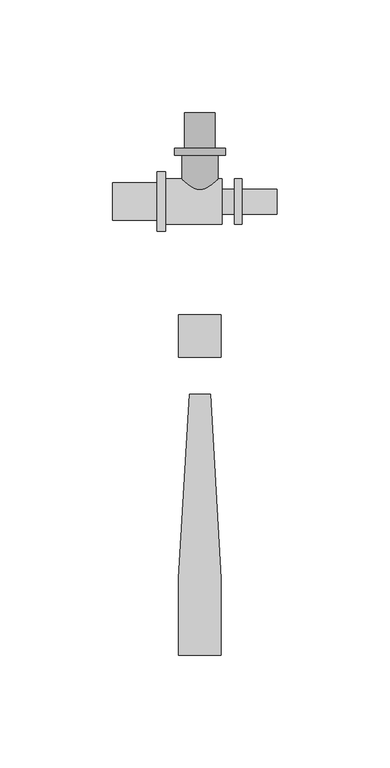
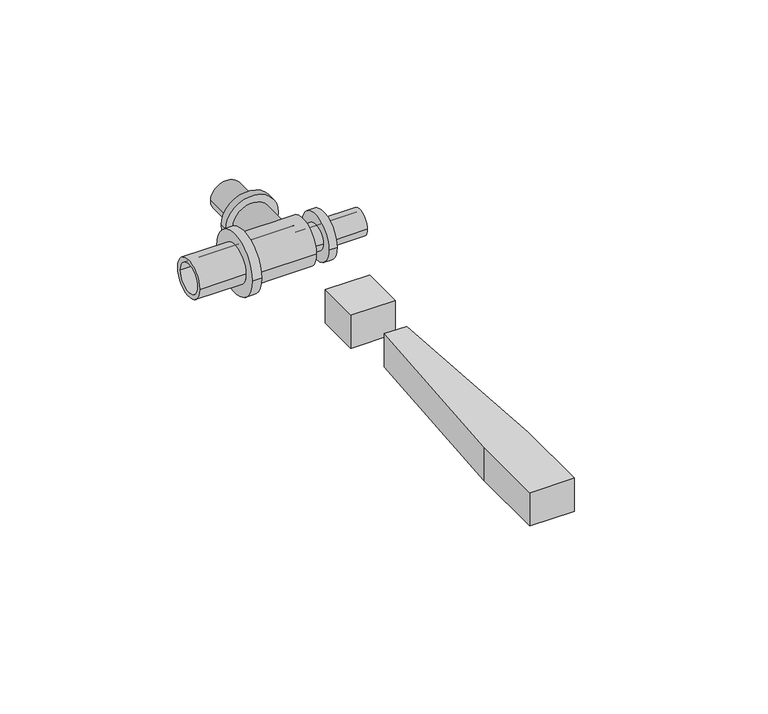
"""IFC4 building model written with IfcOpenShell, lengths in millimetres: pipe fitting geometry, RAUTITAN_T-piece_LX : RTI LX T DN."""

import ifcopenshell
import ifcopenshell.guid

model = None  # the IFC model being written
_history = None  # IfcOwnerHistory: only IFC2X3 demands one
_inside = {}  # id of a spatial element -> (the spatial element, [elements in it])
_under = {}  # id of a project, library or spatial element -> (it, [spatial elements below it])
_declared = {}  # id of a project -> (the project, [libraries it declares])
_typed = {}  # id of a type object -> (the type object, [elements of that type])
_made_of = {}  # id of a material, layer set ... -> (it, [elements and type objects made of it])


def new_model(schema):
    """Start an empty IFC model of exactly this schema.

    Asked for "IFC4X3", IfcOpenShell would pick the latest addendum, in which some entities
    have other attributes; the version numbers below select the first issue.
    IFC2X3 requires an IfcOwnerHistory on every rooted entity: one is made here for all.
    """
    global model, _history
    if schema == "IFC4X3":
        model = ifcopenshell.file(schema_version=(4, 3, 0, 0))
    else:
        model = ifcopenshell.file(schema=schema)
    _inside.clear()
    _under.clear()
    _declared.clear()
    _typed.clear()
    _made_of.clear()
    _history = None
    if model.schema == "IFC2X3":
        org = make("IfcOrganization", Name="unknown")
        user = make(
            "IfcPersonAndOrganization",
            ThePerson=make("IfcPerson", FamilyName="unknown"),
            TheOrganization=org,
        )
        app = make(
            "IfcApplication",
            ApplicationDeveloper=org,
            Version="unknown",
            ApplicationFullName="unknown",
            ApplicationIdentifier="unknown",
        )
        _history = make(
            "IfcOwnerHistory",
            OwningUser=user,
            OwningApplication=app,
            ChangeAction="ADDED",
            CreationDate=0,
        )
    return model


def make(cls, **values):
    """One entity of the class cls with the attributes given. An attribute that is None is left unset."""
    return model.create_entity(
        cls, **{name: value for name, value in values.items() if value is not None}
    )


def rooted(cls, **values):
    """An entity with a GlobalId (a new one), such as an element, a storey or a relation."""
    return make(cls, GlobalId=ifcopenshell.guid.new(), OwnerHistory=_history, **values)


def si_unit(unit_type, name, prefix=None):
    """IfcSIUnit, for example si_unit("LENGTHUNIT", "METRE", prefix="MILLI")."""
    return make("IfcSIUnit", UnitType=unit_type, Prefix=prefix, Name=name)


def assignment(units):
    """IfcUnitAssignment: the units of a project."""
    return None if units is None else make("IfcUnitAssignment", Units=units)


def point(xyz):
    """IfcCartesianPoint."""
    return None if xyz is None else make("IfcCartesianPoint", Coordinates=xyz)


def direction(xyz):
    """IfcDirection."""
    return None if xyz is None else make("IfcDirection", DirectionRatios=xyz)


def frame(location, z_axis=None, x_axis=None):
    """IfcAxis2Placement3D, a coordinate frame: its origin and axes. An axis left out is left unset."""
    return make(
        "IfcAxis2Placement3D",
        Location=point(location),
        Axis=direction(z_axis),
        RefDirection=direction(x_axis),
    )


def origin():
    """The frame at (0, 0, 0) with its axes left unset."""
    return frame((0.0, 0.0, 0.0))


def origin_with_axes():
    """The frame at (0, 0, 0) with the z axis (0, 0, 1) and the x axis (1, 0, 0) written out."""
    return frame((0.0, 0.0, 0.0), z_axis=(0.0, 0.0, 1.0), x_axis=(1.0, 0.0, 0.0))


def place(relative_to, where):
    """IfcLocalPlacement: puts the frame where relative to a parent placement (None: the world)."""
    return make(
        "IfcLocalPlacement", PlacementRelTo=relative_to, RelativePlacement=where
    )


def context(
    kind, dimensions, precision=None, world=None, true_north=None, identifier=None
):
    """IfcGeometricRepresentationContext, for example the 3D "Model" context."""
    return make(
        "IfcGeometricRepresentationContext",
        ContextIdentifier=identifier,
        ContextType=kind,
        CoordinateSpaceDimension=dimensions,
        Precision=precision,
        WorldCoordinateSystem=world,
        TrueNorth=true_north,
    )


def project(units=None, contexts=None):
    """IfcProject with its units and contexts."""
    return rooted(
        "IfcProject",
        Name="project",
        RepresentationContexts=contexts,
        UnitsInContext=assignment(units),
    )


def spatial(cls, under=None, at=None, **own):
    """A site, building, storey or space (cls), placed at a placement, below another one or the project."""
    s = rooted(cls, ObjectPlacement=at, **own)
    if under is not None:
        _under.setdefault(under.id(), (under, []))[1].append(s)
    return s


def polyline(points):
    """IfcPolyline through the points."""
    return make("IfcPolyline", Points=[point(p) for p in points])


def circle_curve(where, radius):
    """IfcCircle in the frame where."""
    return make("IfcCircle", Position=where, Radius=radius)


def outline(outer, holes=None, kind="AREA"):
    """IfcArbitraryClosedProfileDef: a profile drawn as a closed curve; with holes, ...WithVoids."""
    if holes is None:
        return make("IfcArbitraryClosedProfileDef", ProfileType=kind, OuterCurve=outer)
    return make(
        "IfcArbitraryProfileDefWithVoids",
        ProfileType=kind,
        OuterCurve=outer,
        InnerCurves=holes,
    )


def extrude(swept, where, along, depth):
    """IfcExtrudedAreaSolid: the profile swept, set in the frame where, extruded along a direction by depth."""
    return make(
        "IfcExtrudedAreaSolid",
        SweptArea=swept,
        Position=where,
        ExtrudedDirection=direction(along),
        Depth=depth,
    )


def shape(context_of_items, identifier, shape_type, items):
    """IfcShapeRepresentation: the items that make up one representation, for example the "Body"."""
    return make(
        "IfcShapeRepresentation",
        ContextOfItems=context_of_items,
        RepresentationIdentifier=identifier,
        RepresentationType=shape_type,
        Items=items,
    )


def source(mapping_origin, context_of_items, identifier, shape_type, items):
    """IfcRepresentationMap: a shape defined once, which mapped items show again and again."""
    return make(
        "IfcRepresentationMap",
        MappingOrigin=mapping_origin,
        MappedRepresentation=shape(context_of_items, identifier, shape_type, items),
    )


def transform(
    local_origin,
    x_axis=None,
    y_axis=None,
    z_axis=None,
    scale=None,
    scale2=None,
    scale3=None,
    uniform=True,
):
    """IfcCartesianTransformationOperator3D, or its non-uniform kind. x_axis, y_axis, z_axis: its Axis1, 2, 3."""
    if uniform:
        return make(
            "IfcCartesianTransformationOperator3D",
            Axis1=direction(x_axis),
            Axis2=direction(y_axis),
            LocalOrigin=point(local_origin),
            Scale=scale,
            Axis3=direction(z_axis),
        )
    return make(
        "IfcCartesianTransformationOperator3DnonUniform",
        Axis1=direction(x_axis),
        Axis2=direction(y_axis),
        LocalOrigin=point(local_origin),
        Scale=scale,
        Axis3=direction(z_axis),
        Scale2=scale2,
        Scale3=scale3,
    )


def mapped(mapping_source, mapping_target):
    """IfcMappedItem: shows the shape of a source again, moved by a transform."""
    return make(
        "IfcMappedItem", MappingSource=mapping_source, MappingTarget=mapping_target
    )


def made_of(thing, what):
    """Note that an element or type object is made of a material, layer set ...; save() writes the relation."""
    if what is not None:
        _made_of.setdefault(what.id(), (what, []))[1].append(thing)
    return thing


def element(
    cls,
    number,
    at=None,
    inside=None,
    cuts=None,
    type_object=None,
    material=None,
    context=None,
    identifier="Body",
    shape_type=None,
    held_by="IfcProductDefinitionShape",
    body=None,
    shapes=None,
    **own,
):
    """One element of the class cls, such as IfcWall. Its Tag is "e" and its number.

    at: its placement. inside: the storey or other place that contains it. cuts: it is an
    opening in that element (IfcRelVoidsElement). A single representation is given by context,
    identifier, shape_type and body (its items); several are given by shapes. held_by: the class
    of the entity that holds the representations. save() writes the other relations.
    """
    e = rooted(cls, Tag="e%d" % number, ObjectPlacement=at, **own)
    if body is not None:
        shapes = [shape(context, identifier, shape_type, body)]
    if shapes is not None:
        e.Representation = make(held_by, Representations=shapes)
    if inside is not None:
        _inside.setdefault(inside.id(), (inside, []))[1].append(e)
    if cuts is not None:
        rooted(
            "IfcRelVoidsElement", RelatingBuildingElement=cuts, RelatedOpeningElement=e
        )
    if type_object is not None:
        _typed.setdefault(type_object.id(), (type_object, []))[1].append(e)
    return made_of(e, material)


def aggregate(whole, parts):
    """IfcRelAggregates: a whole, such as a stair, and the parts it consists of."""
    return rooted("IfcRelAggregates", RelatingObject=whole, RelatedObjects=parts)


def save(model, path):
    """Write the relations noted so far, then the file.

    IfcRelAggregates (storeys below a building ...), IfcRelContainedInSpatialStructure (elements
    in a storey), IfcRelDefinesByType, IfcRelAssociatesMaterial and IfcRelDeclares: one each for
    every whole, place, type object, material and project.
    """
    for whole, parts in _under.values():
        aggregate(whole, parts)
    for where, things in _inside.values():
        rooted(
            "IfcRelContainedInSpatialStructure",
            RelatedElements=things,
            RelatingStructure=where,
        )
    for kind, things in _typed.values():
        rooted("IfcRelDefinesByType", RelatedObjects=things, RelatingType=kind)
    for what, things in _made_of.values():
        rooted("IfcRelAssociatesMaterial", RelatedObjects=things, RelatingMaterial=what)
    for by, libraries in _declared.values():
        rooted("IfcRelDeclares", RelatingContext=by, RelatedDefinitions=libraries)
    model.write(path)


def plane_surface(at):
    """IfcPlane: the flat surface through the origin of the frame at, square to its z axis."""
    return make("IfcPlane", Position=at)


def cylinder_surface(at, radius):
    """IfcCylindricalSurface: all points at the distance radius from the z axis of the frame at."""
    return make("IfcCylindricalSurface", Position=at, Radius=radius)


def revolved_surface(curve, axis_point, axis_direction):
    """IfcSurfaceOfRevolution: the curve turned about the line through axis_point along axis_direction."""
    return make(
        "IfcSurfaceOfRevolution",
        SweptCurve=make("IfcArbitraryOpenProfileDef", ProfileType="CURVE", Curve=curve),
        AxisPosition=make("IfcAxis1Placement", Location=point(axis_point), Axis=direction(axis_direction)),
    )


def advanced_brep(points, edges, surfaces, faces):
    """IfcAdvancedBrep: a solid bounded by faces that lie on surfaces and meet in shared edges.

    An edge is (start, end): straight between two places in points (the first is 0);
    or (start, end, curve); or (start, end, curve, False) where it runs against its curve.
    A face is (place in surfaces, loops), or (place, loops, False) where it looks against
    its surface's normal. A loop lists edges by number (the first is 1), with a minus sign
    where the edge is run from its end to its start. The first loop is the outer one.
    """
    corners = [point(p) for p in points]
    vertices = [make("IfcVertexPoint", VertexGeometry=c) for c in corners]
    made = []
    for start, end, *more in edges:
        made.append(
            make(
                "IfcEdgeCurve",
                EdgeStart=vertices[start],
                EdgeEnd=vertices[end],
                EdgeGeometry=more[0] if more else make("IfcPolyline", Points=[corners[start], corners[end]]),
                SameSense=more[1] if len(more) > 1 else True,
            )
        )
    hull = []
    for where, loops, *sense in faces:
        bounds = []
        for j, loop in enumerate(loops):
            ring = [make("IfcOrientedEdge", EdgeElement=made[abs(k) - 1], Orientation=k > 0) for k in loop]
            bounds.append(
                make(
                    "IfcFaceOuterBound" if j == 0 else "IfcFaceBound",
                    Bound=make("IfcEdgeLoop", EdgeList=ring),
                    Orientation=True,
                )
            )
        hull.append(make("IfcAdvancedFace", Bounds=bounds, FaceSurface=surfaces[where], SameSense=sense[0] if sense else True))
    return make("IfcAdvancedBrep", Outer=make("IfcClosedShell", CfsFaces=hull))


def pipe_fitting_2e8cdfe4(model_context):
    return source(origin(), model_context, "Body", "SolidModel", [
        advanced_brep(
        [(-8.05, 20.4, 0.0), (8.05, 20.4, 0.0), (8.05, 0.0, 0.0), (-8.05, 0.0, 0.0), (-11.25, 23.7, 0.0), (11.25, 23.7, 0.0), (11.25, 20.4, 0.0), (-11.25, 20.4, 0.0), (-6.75, 39.2, 0.0), (6.75, 39.2, 0.0), (6.75, 23.7, 0.0), (-6.75, 23.7, 0.0), (-4.95, 0.0, 0.0), (4.95, 0.0, 0.0), (4.95, 39.2, 0.0), (-4.95, 39.2, 0.0)],
        [
            (0, 1, circle_curve(frame((0.0, 20.4, 0.0), z_axis=(0.0, -1.0, 0.0), x_axis=(1.0, 0.0, 0.0)), 8.05)),
            (1, 2),
            (2, 3, circle_curve(frame((0.0, 0.0, 0.0), z_axis=(0.0, 1.0, 0.0), x_axis=(1.0, 0.0, 0.0)), 8.05)),
            (3, 0),
            (4, 5, circle_curve(frame((0.0, 23.7, 0.0), z_axis=(0.0, -1.0, 0.0), x_axis=(1.0, 0.0, 0.0)), 11.25)),
            (5, 6),
            (6, 7, circle_curve(frame((0.0, 20.4, 0.0), z_axis=(0.0, 1.0, 0.0), x_axis=(1.0, 0.0, 0.0)), 11.25)),
            (7, 4),
            (8, 9, circle_curve(frame((0.0, 39.2, 0.0), z_axis=(0.0, -1.0, 0.0), x_axis=(1.0, 0.0, 0.0)), 6.75)),
            (9, 10),
            (10, 11, circle_curve(frame((0.0, 23.7, 0.0), z_axis=(0.0, 1.0, 0.0), x_axis=(1.0, 0.0, 0.0)), 6.75)),
            (11, 8),
            (12, 13, circle_curve(frame((0.0, 0.0, 0.0), z_axis=(0.0, -1.0, 0.0), x_axis=(1.0, 0.0, 0.0)), 4.95)),
            (13, 14),
            (14, 15, circle_curve(frame((0.0, 39.2, 0.0), z_axis=(0.0, 1.0, 0.0), x_axis=(1.0, 0.0, 0.0)), 4.95)),
            (15, 12),
            (1, 0, circle_curve(frame((0.0, 20.4, 0.0), z_axis=(0.0, -1.0, 0.0), x_axis=(-1.0, 0.0, 0.0)), 8.05)),
            (3, 2, circle_curve(frame((0.0, 0.0, 0.0), z_axis=(0.0, 1.0, 0.0), x_axis=(-1.0, 0.0, 0.0)), 8.05)),
            (6, 7, circle_curve(frame((0.0, 20.4, 0.0), z_axis=(0.0, -1.0, 0.0), x_axis=(-1.0, 0.0, 0.0)), 11.25)),
            (5, 4, circle_curve(frame((0.0, 23.7, 0.0), z_axis=(0.0, -1.0, 0.0), x_axis=(-1.0, 0.0, 0.0)), 11.25)),
            (10, 11, circle_curve(frame((0.0, 23.7, 0.0), z_axis=(0.0, -1.0, 0.0), x_axis=(-1.0, 0.0, 0.0)), 6.75)),
            (9, 8, circle_curve(frame((0.0, 39.2, 0.0), z_axis=(0.0, -1.0, 0.0), x_axis=(-1.0, 0.0, 0.0)), 6.75)),
            (14, 15, circle_curve(frame((0.0, 39.2, 0.0), z_axis=(0.0, -1.0, 0.0), x_axis=(-1.0, 0.0, 0.0)), 4.95)),
            (13, 12, circle_curve(frame((0.0, 0.0, 0.0), z_axis=(0.0, -1.0, 0.0), x_axis=(-1.0, 0.0, 0.0)), 4.95)),
        ],
        [
            cylinder_surface(frame((0.0, 0.0, 0.0), z_axis=(0.0, 1.0, 0.0), x_axis=(1.0, 0.0, 0.0)), 8.05),
            cylinder_surface(frame((0.0, 0.0, 0.0), z_axis=(0.0, 1.0, 0.0), x_axis=(1.0, 0.0, 0.0)), 11.25),
            cylinder_surface(frame((0.0, 0.0, 0.0), z_axis=(0.0, 1.0, 0.0), x_axis=(1.0, 0.0, 0.0)), 6.75),
            revolved_surface(polyline([(4.95, 39.2, 0.0), (4.95, 0.0, 0.0)]), (0.0, 0.0, 0.0), (0.0, 1.0, 0.0)),
            cylinder_surface(frame((0.0, 0.0, 0.0), z_axis=(0.0, 1.0, 0.0), x_axis=(-1.0, 0.0, 0.0)), 8.05),
            plane_surface(frame((0.0, 20.4, 0.0), z_axis=(0.0, -1.0, 0.0), x_axis=(-1.0, 0.0, 0.0))),
            cylinder_surface(frame((0.0, 0.0, 0.0), z_axis=(0.0, 1.0, 0.0), x_axis=(-1.0, 0.0, 0.0)), 11.25),
            plane_surface(frame((0.0, 23.7, 0.0), z_axis=(0.0, 1.0, 0.0), x_axis=(-1.0, 0.0, 0.0))),
            cylinder_surface(frame((0.0, 0.0, 0.0), z_axis=(0.0, 1.0, 0.0), x_axis=(-1.0, 0.0, 0.0)), 6.75),
            plane_surface(frame((0.0, 39.2, 0.0), z_axis=(0.0, 1.0, 0.0), x_axis=(-1.0, 0.0, 0.0))),
            revolved_surface(polyline([(-4.95, 39.2, 0.0), (-4.95, 0.0, 0.0)]), (0.0, 0.0, 0.0), (0.0, 1.0, 0.0)),
            plane_surface(frame((0.0, 0.0, 0.0), z_axis=(0.0, -1.0, 0.0), x_axis=(-1.0, 0.0, 0.0))),
        ],
        [
            (0, [[1, 2, 3, 4]]),
            (1, [[5, 6, 7, 8]]),
            (2, [[9, 10, 11, 12]]),
            (3, [[13, 14, 15, 16]]),
            (4, [[17, -4, 18, -2]]),
            (5, [[19, -7], [-17, -1]]),
            (6, [[20, -8, -19, -6]]),
            (7, [[-20, -5], [21, -11]]),
            (8, [[22, -12, -21, -10]]),
            (9, [[-22, -9], [23, -15]]),
            (10, [[24, -16, -23, -14]]),
            (11, [[-18, -3], [-24, -13]]),
        ],
    ),
        advanced_brep(
        [(-38.6, 6.25, 0.0), (-38.6, -6.25, 0.0), (8.05, -6.25, 0.0), (8.05, 6.25, 0.0), (9.85, 10.05, 0.0), (9.85, -10.05, 0.0), (-15.3, -10.05, 0.0), (-15.3, 10.05, 0.0), (-15.3, 13.25, 0.0), (-15.3, -13.25, 0.0), (-19.1, -13.25, 0.0), (-19.1, 13.25, 0.0), (-19.1, 8.25, 0.0), (-19.1, -8.25, 0.0), (-38.6, -8.25, 0.0), (-38.6, 8.25, 0.0), (8.05, 3.75, 0.0), (8.05, -3.75, 0.0), (34.1, -3.75, 0.0), (34.1, 3.75, 0.0), (34.1, 5.55, 0.0), (34.1, -5.55, 0.0), (18.6, -5.55, 0.0), (18.6, 5.55, 0.0), (18.6, 10.05, 0.0), (18.6, -10.05, 0.0), (15.3, -10.05, 0.0), (15.3, 10.05, 0.0), (15.3, 5.55, 0.0), (15.3, -5.55, 0.0), (9.85, -5.55, 0.0), (9.85, 5.55, 0.0)],
        [
            (0, 1, circle_curve(frame((-38.6, 0.0, 0.0), z_axis=(-1.0, 0.0, 0.0), x_axis=(0.0, -1.0, 0.0)), 6.25)),
            (1, 2),
            (2, 3, circle_curve(frame((8.05, 0.0, 0.0), z_axis=(1.0, 0.0, 0.0), x_axis=(0.0, -1.0, 0.0)), 6.25)),
            (3, 0),
            (4, 5, circle_curve(frame((9.85, 0.0, 0.0), z_axis=(-1.0, 0.0, 0.0), x_axis=(0.0, -1.0, 0.0)), 10.05)),
            (5, 6),
            (6, 7, circle_curve(frame((-15.3, 0.0, 0.0), z_axis=(1.0, 0.0, 0.0), x_axis=(0.0, -1.0, 0.0)), 10.05)),
            (7, 4),
            (1, 0, circle_curve(frame((-38.6, 0.0, 0.0), z_axis=(-1.0, 0.0, 0.0), x_axis=(0.0, 1.0, 0.0)), 6.25)),
            (3, 2, circle_curve(frame((8.05, 0.0, 0.0), z_axis=(1.0, 0.0, 0.0), x_axis=(0.0, 1.0, 0.0)), 6.25)),
            (5, 4, circle_curve(frame((9.85, 0.0, 0.0), z_axis=(-1.0, 0.0, 0.0), x_axis=(0.0, 1.0, 0.0)), 10.05)),
            (7, 6, circle_curve(frame((-15.3, 0.0, 0.0), z_axis=(1.0, 0.0, 0.0), x_axis=(0.0, 1.0, 0.0)), 10.05)),
            (8, 9, circle_curve(frame((-15.3, 0.0, 0.0), z_axis=(-1.0, 0.0, 0.0), x_axis=(0.0, -1.0, 0.0)), 13.25)),
            (9, 10),
            (10, 11, circle_curve(frame((-19.1, 0.0, 0.0), z_axis=(1.0, 0.0, 0.0), x_axis=(0.0, -1.0, 0.0)), 13.25)),
            (11, 8),
            (12, 13, circle_curve(frame((-19.1, 0.0, 0.0), z_axis=(-1.0, 0.0, 0.0), x_axis=(0.0, -1.0, 0.0)), 8.25)),
            (13, 14),
            (14, 15, circle_curve(frame((-38.6, 0.0, 0.0), z_axis=(1.0, 0.0, 0.0), x_axis=(0.0, -1.0, 0.0)), 8.25)),
            (15, 12),
            (8, 9, circle_curve(frame((-15.3, 0.0, 0.0), z_axis=(1.0, 0.0, 0.0), x_axis=(0.0, 1.0, 0.0)), 13.25)),
            (11, 10, circle_curve(frame((-19.1, 0.0, 0.0), z_axis=(1.0, 0.0, 0.0), x_axis=(0.0, 1.0, 0.0)), 13.25)),
            (12, 13, circle_curve(frame((-19.1, 0.0, 0.0), z_axis=(1.0, 0.0, 0.0), x_axis=(0.0, 1.0, 0.0)), 8.25)),
            (15, 14, circle_curve(frame((-38.6, 0.0, 0.0), z_axis=(1.0, 0.0, 0.0), x_axis=(0.0, 1.0, 0.0)), 8.25)),
            (16, 17, circle_curve(frame((8.05, 0.0, 0.0), z_axis=(-1.0, 0.0, 0.0), x_axis=(0.0, -1.0, 0.0)), 3.75)),
            (17, 18),
            (18, 19, circle_curve(frame((34.1, 0.0, 0.0), z_axis=(1.0, 0.0, 0.0), x_axis=(0.0, -1.0, 0.0)), 3.75)),
            (19, 16),
            (20, 21, circle_curve(frame((34.1, 0.0, 0.0), z_axis=(-1.0, 0.0, 0.0), x_axis=(0.0, -1.0, 0.0)), 5.55)),
            (21, 22),
            (22, 23, circle_curve(frame((18.6, 0.0, 0.0), z_axis=(1.0, 0.0, 0.0), x_axis=(0.0, -1.0, 0.0)), 5.55)),
            (23, 20),
            (24, 25, circle_curve(frame((18.6, 0.0, 0.0), z_axis=(-1.0, 0.0, 0.0), x_axis=(0.0, -1.0, 0.0)), 10.05)),
            (25, 26),
            (26, 27, circle_curve(frame((15.3, 0.0, 0.0), z_axis=(1.0, 0.0, 0.0), x_axis=(0.0, -1.0, 0.0)), 10.05)),
            (27, 24),
            (28, 29, circle_curve(frame((15.3, 0.0, 0.0), z_axis=(-1.0, 0.0, 0.0), x_axis=(0.0, -1.0, 0.0)), 5.55)),
            (29, 30),
            (30, 31, circle_curve(frame((9.85, 0.0, 0.0), z_axis=(1.0, 0.0, 0.0), x_axis=(0.0, -1.0, 0.0)), 5.55)),
            (31, 28),
            (16, 17, circle_curve(frame((8.05, 0.0, 0.0), z_axis=(1.0, 0.0, 0.0), x_axis=(0.0, 1.0, 0.0)), 3.75)),
            (19, 18, circle_curve(frame((34.1, 0.0, 0.0), z_axis=(1.0, 0.0, 0.0), x_axis=(0.0, 1.0, 0.0)), 3.75)),
            (20, 21, circle_curve(frame((34.1, 0.0, 0.0), z_axis=(1.0, 0.0, 0.0), x_axis=(0.0, 1.0, 0.0)), 5.55)),
            (23, 22, circle_curve(frame((18.6, 0.0, 0.0), z_axis=(1.0, 0.0, 0.0), x_axis=(0.0, 1.0, 0.0)), 5.55)),
            (24, 25, circle_curve(frame((18.6, 0.0, 0.0), z_axis=(1.0, 0.0, 0.0), x_axis=(0.0, 1.0, 0.0)), 10.05)),
            (27, 26, circle_curve(frame((15.3, 0.0, 0.0), z_axis=(1.0, 0.0, 0.0), x_axis=(0.0, 1.0, 0.0)), 10.05)),
            (28, 29, circle_curve(frame((15.3, 0.0, 0.0), z_axis=(1.0, 0.0, 0.0), x_axis=(0.0, 1.0, 0.0)), 5.55)),
            (31, 30, circle_curve(frame((9.85, 0.0, 0.0), z_axis=(1.0, 0.0, 0.0), x_axis=(0.0, 1.0, 0.0)), 5.55)),
        ],
        [
            revolved_surface(polyline([(8.05, -6.25, 0.0), (-38.6, -6.25, 0.0)]), (0.0, 0.0, 0.0), (1.0, 0.0, 0.0)),
            cylinder_surface(frame((0.0, 0.0, 0.0), z_axis=(1.0, 0.0, 0.0), x_axis=(0.0, -1.0, 0.0)), 10.05),
            revolved_surface(polyline([(8.05, 6.25, 0.0), (-38.6, 6.25, 0.0)]), (0.0, 0.0, 0.0), (1.0, 0.0, 0.0)),
            cylinder_surface(frame((0.0, 0.0, 0.0), z_axis=(1.0, 0.0, 0.0), x_axis=(0.0, 1.0, 0.0)), 10.05),
            cylinder_surface(frame((0.0, 0.0, 0.0), z_axis=(1.0, 0.0, 0.0), x_axis=(0.0, -1.0, 0.0)), 13.25),
            cylinder_surface(frame((0.0, 0.0, 0.0), z_axis=(1.0, 0.0, 0.0), x_axis=(0.0, -1.0, 0.0)), 8.25),
            plane_surface(frame((-15.3, 0.0, 0.0), z_axis=(1.0, 0.0, 0.0), x_axis=(0.0, 1.0, 0.0))),
            cylinder_surface(frame((0.0, 0.0, 0.0), z_axis=(1.0, 0.0, 0.0), x_axis=(0.0, 1.0, 0.0)), 13.25),
            plane_surface(frame((-19.1, 0.0, 0.0), z_axis=(-1.0, 0.0, 0.0), x_axis=(0.0, 1.0, 0.0))),
            cylinder_surface(frame((0.0, 0.0, 0.0), z_axis=(1.0, 0.0, 0.0), x_axis=(0.0, 1.0, 0.0)), 8.25),
            plane_surface(frame((-38.6, 0.0, 0.0), z_axis=(-1.0, 0.0, 0.0), x_axis=(0.0, 1.0, 0.0))),
            revolved_surface(polyline([(34.1, -3.75, 0.0), (8.05, -3.75, 0.0)]), (0.0, 0.0, 0.0), (1.0, 0.0, 0.0)),
            cylinder_surface(frame((0.0, 0.0, 0.0), z_axis=(1.0, 0.0, 0.0), x_axis=(0.0, -1.0, 0.0)), 5.55),
            plane_surface(frame((8.05, 0.0, 0.0), z_axis=(-1.0, 0.0, 0.0), x_axis=(0.0, 1.0, 0.0))),
            revolved_surface(polyline([(34.1, 3.75, 0.0), (8.05, 3.75, 0.0)]), (0.0, 0.0, 0.0), (1.0, 0.0, 0.0)),
            plane_surface(frame((34.1, 0.0, 0.0), z_axis=(1.0, 0.0, 0.0), x_axis=(0.0, 1.0, 0.0))),
            cylinder_surface(frame((0.0, 0.0, 0.0), z_axis=(1.0, 0.0, 0.0), x_axis=(0.0, 1.0, 0.0)), 5.55),
            plane_surface(frame((18.6, 0.0, 0.0), z_axis=(1.0, 0.0, 0.0), x_axis=(0.0, 1.0, 0.0))),
            plane_surface(frame((15.3, 0.0, 0.0), z_axis=(-1.0, 0.0, 0.0), x_axis=(0.0, 1.0, 0.0))),
            plane_surface(frame((9.85, 0.0, 0.0), z_axis=(1.0, 0.0, 0.0), x_axis=(0.0, 1.0, 0.0))),
        ],
        [
            (0, [[1, 2, 3, 4]]),
            (1, [[5, 6, 7, 8]]),
            (2, [[9, -4, 10, -2]]),
            (3, [[11, -8, 12, -6]]),
            (4, [[13, 14, 15, 16]]),
            (5, [[17, 18, 19, 20]]),
            (6, [[21, -13], [-12, -7]]),
            (7, [[-21, -16, 22, -14]]),
            (8, [[-22, -15], [23, -17]]),
            (9, [[-23, -20, 24, -18]]),
            (10, [[-24, -19], [-9, -1]]),
            (11, [[25, 26, 27, 28]]),
            (12, [[29, 30, 31, 32]]),
            (1, [[33, 34, 35, 36]]),
            (12, [[37, 38, 39, 40]]),
            (13, [[-10, -3], [41, -25]]),
            (14, [[-41, -28, 42, -26]]),
            (15, [[43, -29], [-42, -27]]),
            (16, [[-43, -32, 44, -30]]),
            (17, [[45, -33], [-44, -31]]),
            (3, [[-45, -36, 46, -34]]),
            (18, [[-46, -35], [47, -37]]),
            (16, [[-47, -40, 48, -38]]),
            (19, [[-11, -5], [-48, -39]]),
        ],
    ),
        extrude(outline(polyline([(4.7088895, -85.3166715), (9.4177791, -166.6553807), (9.4177791, -200.6844652), (-9.4177791, -200.6844652), (-9.4177791, -166.6553807), (-4.7088895, -85.3166715), (4.7088895, -85.3166715)])), origin_with_axes(), (0.0, 0.0, 1.0), 15.0),
        extrude(outline(polyline([(9.4177791, -50.0), (9.4177791, -68.8355582), (-9.4177791, -68.8355582), (-9.4177791, -50.0), (9.4177791, -50.0)])), origin_with_axes(), (0.0, 0.0, 1.0), 15.0),
    ])


if __name__ == "__main__":
    model = new_model("IFC4")
    model_context = context("Model", 3, world=origin())
    ifc_project = project(units=[si_unit("LENGTHUNIT", "METRE", prefix="MILLI")], contexts=[model_context])
    site = spatial("IfcSite", under=ifc_project)
    building = spatial("IfcBuilding", under=site)
    placement = place(None, origin())
    pipe_fitting_shape = pipe_fitting_2e8cdfe4(model_context)
    element("IfcPipeFitting", 1, ObjectType="RAUTITAN_T-piece_LX : RTI LX T DN", at=placement, inside=building, context=model_context, shape_type="MappedRepresentation", body=[
        mapped(pipe_fitting_shape, transform((0.0, 0.0, 0.0), x_axis=(1.0, 0.0, 0.0), y_axis=(0.0, 1.0, 0.0), z_axis=(0.0, 0.0, 1.0))),
    ])
    save(model, "model.ifc")
